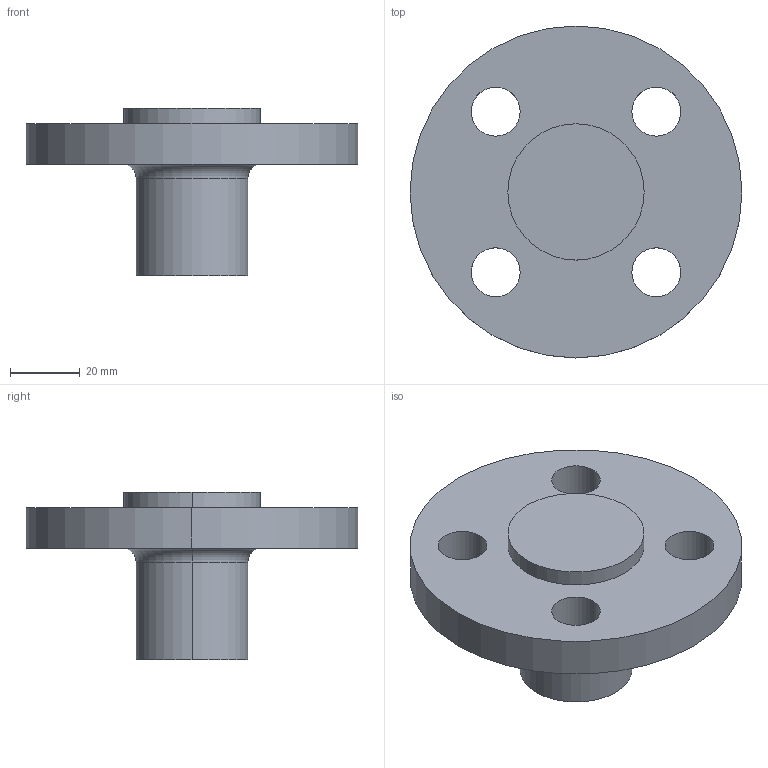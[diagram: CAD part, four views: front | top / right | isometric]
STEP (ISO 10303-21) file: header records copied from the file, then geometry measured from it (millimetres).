
FILE_DESCRIPTION (( 'STEP AP214' ), '1' );
FILE_NAME ('PN40 DN15 Type 21(i) - Type E Face.STEP', '2018-12-29T14:28:39', ( '' ), ( '' ), 'SwSTEP 2.0', 'SolidWorks 2019', '' );
FILE_SCHEMA (( 'AUTOMOTIVE_DESIGN' ));
Length unit declared in the file: millimetre
Products named in the file (1): PN40 DN15 Type 21(i) - Type E Face
Bounding box: 95 x 95 x 48 mm (x, y, z)
Volume: 105909.4 mm3; surface area: 22003.2 mm2
Topology: 1 solids, 1 shells, 20 faces, 46 edges, 30 vertices
Faces by surface type: cylinder 14, plane 4, torus 2
Entity records: 636 total; most frequent: DIRECTION 120, CARTESIAN_POINT 97, ORIENTED_EDGE 92, AXIS2_PLACEMENT_3D 53, EDGE_CURVE 46, CIRCLE 32, VERTEX_POINT 30, EDGE_LOOP 30
